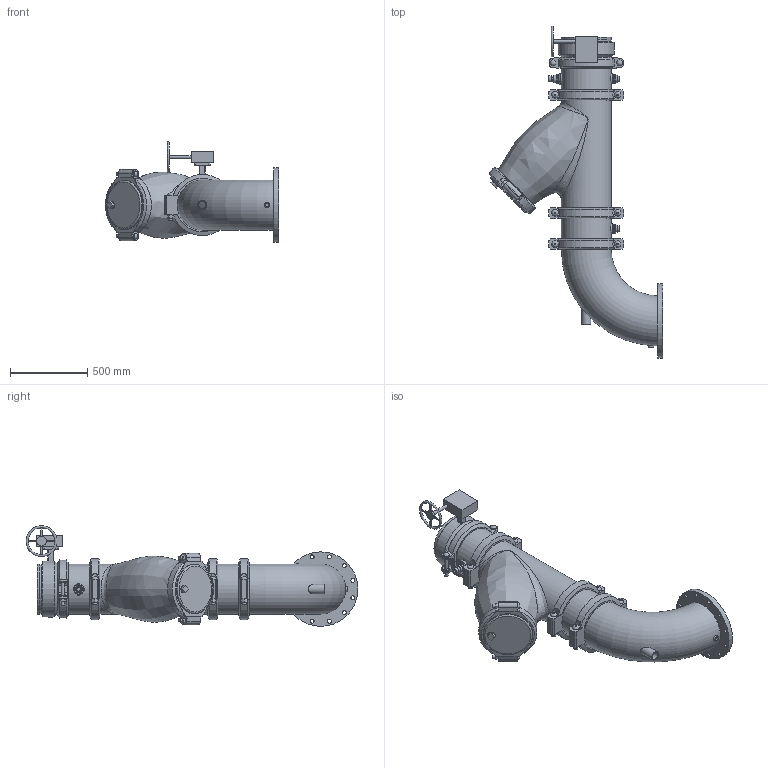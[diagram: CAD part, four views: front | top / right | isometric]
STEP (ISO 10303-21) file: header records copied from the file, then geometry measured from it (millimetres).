
FILE_DESCRIPTION(/* description */ ('VIC SVI PUMP DROP HORZ S/382 (OGSxFLG) (S/924-0.75)','CAx-IF Rec.Pracs.---Representation and Presentation of Product Manufacturing Information (PMI)---4.0---2014-10-13'),/* implementation_level */ '2;1');
FILE_NAME(/* name */ 'C:\Users\Vjadhav\AppData\Roaming\Autodesk\ApplicationPlugins\Victaulic.Temp\A562\Victaulic_IPS_Horizontal SVI_CL 150_Series 382 (OGSxFLG)_924 (0.75)_12.0x12.0 (300x300).stp',/* time_stamp */ '2022-02-28T20:01:22+06:00',/* author */ ('kkamble'),/* organization */ ('Victaulic'),/* preprocessor_version */ 'ST-DEVELOPER v17.2',/* originating_system */ 'Autodesk Inventor 2019',/* authorisation */ '');
FILE_SCHEMA (('AP242_MANAGED_MODEL_BASED_3D_ENGINEERING_MIM_LF { 1 0 10303 442 1 1 4 }'));
Length unit declared in the file: inch
Products named in the file (13): 382_924 (0.75)-12.0x12.0; PIPE-12.0; 107N-12.0; 732-12.0; 732-12.0_1; 07-12.0; 732-12.0_2; 077-12.0; PIPE-12.3; 761-12.0; 924-10.0x0.75; 923-10.0x0.75; 100F-12.0
Assembly tree (15 placements, depth 3):
  382_924 (0.75)-12.0x12.0
    PIPE-12.0
    107N-12.0
    732-12.0
      732-12.0_1
      07-12.0
      732-12.0_2
    077-12.0  x3
    PIPE-12.3
    761-12.0
    924-10.0x0.75
    923-10.0x0.75  x2
    100F-12.0
Bounding box: 1123.95 x 2152.32 x 652.25 mm (x, y, z)
Volume: 49458598 mm3; surface area: 7562547.8 mm2
Topology: 14 solids, 23 shells, 748 faces, 1863 edges, 1256 vertices
Faces by surface type: plane 416, cylinder 257, bspline 32, cone 27, torus 12, sphere 4
Full cylindrical faces by diameter (mm): 10.922 x4, 20.066 x1, 20.93 x1, 21.336 x2, 22.225 x8, 22.86 x1, 25.4 x24, 26.67 x5, 27.432 x6, 31.75 x1, 34.29 x1, 37.694 x4, 38.608 x1, 45.974 x6, 48.26 x1, 50.8 x1, 55.626 x3, 60.96 x1, 63.079 x1, 70.104 x1, 76.2 x2, 292.1 x1, 303.225 x1, 304.216 x1, 304.546 x1, 304.8 x4, 311.15 x2, 314.96 x3, 318.287 x11, 323.85 x26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
Entity records: 23318 total; most frequent: CARTESIAN_POINT 8061, DIRECTION 3088, ORIENTED_EDGE 2846, EDGE_CURVE 1423, AXIS2_PLACEMENT_3D 1190, VERTEX_POINT 963, EDGE_LOOP 714, LINE 708
